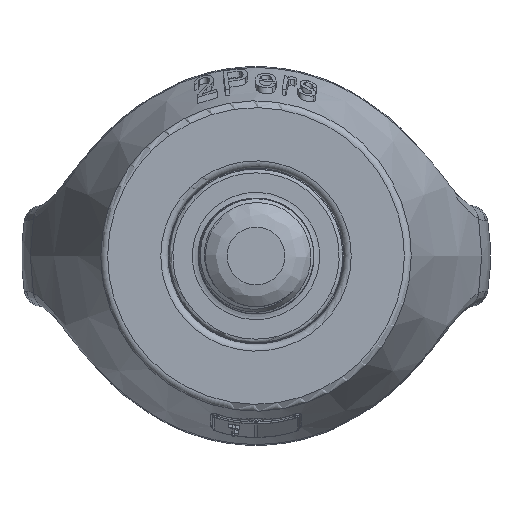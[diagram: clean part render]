
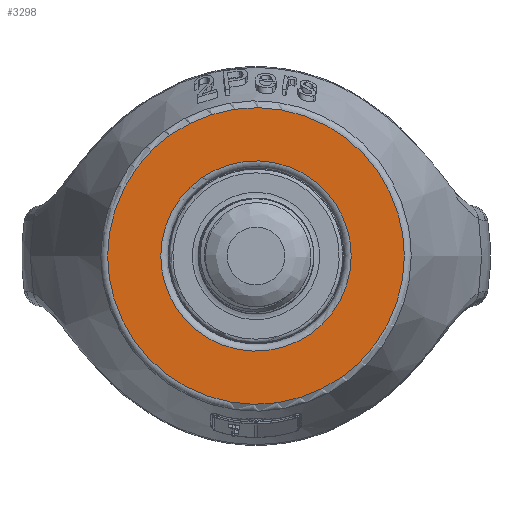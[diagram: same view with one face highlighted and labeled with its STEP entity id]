
A CAD part, front view. The second image highlights one B-rep face of the part: STEP entity #3298.
In plain terms, the highlighted planar face has unit normal (0, -1, 0).
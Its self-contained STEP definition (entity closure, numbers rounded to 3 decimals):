
#326=FACE_BOUND('',#5837,.T.);
#327=FACE_BOUND('',#5838,.T.);
#3298=ADVANCED_FACE('*FAC3275',(#326,#327),#3898,.T.);
#3898=PLANE('',#24615);
#5837=EDGE_LOOP('',(#12722,#12723));
#5838=EDGE_LOOP('',(#12724,#12725));
#12722=ORIENTED_EDGE('',*,*,#20731,.T.);
#12723=ORIENTED_EDGE('',*,*,#20730,.T.);
#12724=ORIENTED_EDGE('',*,*,#20938,.F.);
#12725=ORIENTED_EDGE('',*,*,#20939,.F.);
#16780=VERTEX_POINT('',#54967);
#16781=VERTEX_POINT('',#54968);
#16973=VERTEX_POINT('',#56884);
#16974=VERTEX_POINT('',#56885);
#20730=EDGE_CURVE('',#16780,#16781,#23685,.T.);
#20731=EDGE_CURVE('',#16781,#16780,#23686,.T.);
#20938=EDGE_CURVE('',#16973,#16974,#23751,.T.);
#20939=EDGE_CURVE('',#16974,#16973,#23752,.T.);
#23685=B_SPLINE_CURVE_WITH_KNOTS('',3,(#54957,#54958,#54959,#54960,#54961,
#54962,#54963,#54964,#54965,#54966),.UNSPECIFIED.,.F.,.F.,(4,2,2,2,4),(0.,
0.25,0.5,0.75,1.),.UNSPECIFIED.);
#23686=B_SPLINE_CURVE_WITH_KNOTS('',3,(#54969,#54970,#54971,#54972,#54973,
#54974,#54975,#54976,#54977,#54978),.UNSPECIFIED.,.F.,.F.,(4,2,2,2,4),(0.,
0.25,0.5,0.75,1.),.UNSPECIFIED.);
#23751=B_SPLINE_CURVE_WITH_KNOTS('',3,(#56874,#56875,#56876,#56877,#56878,
#56879,#56880,#56881,#56882,#56883),.UNSPECIFIED.,.F.,.F.,(4,2,2,2,4),(0.,
0.25,0.5,0.75,1.),.UNSPECIFIED.);
#23752=B_SPLINE_CURVE_WITH_KNOTS('',3,(#56886,#56887,#56888,#56889,#56890,
#56891,#56892,#56893,#56894,#56895),.UNSPECIFIED.,.F.,.F.,(4,2,2,2,4),(0.,
0.25,0.5,0.75,1.),.UNSPECIFIED.);
#24615=AXIS2_PLACEMENT_3D('',#56896,#25700,#25701);
#25700=DIRECTION('',(0.,-1.,0.));
#25701=DIRECTION('',(-1.,0.,0.));
#54957=CARTESIAN_POINT('',(13.15,-35.75,0.));
#54958=CARTESIAN_POINT('',(13.15,-35.75,-3.453));
#54959=CARTESIAN_POINT('',(11.739,-35.75,-6.857));
#54960=CARTESIAN_POINT('',(6.857,-35.75,-11.74));
#54961=CARTESIAN_POINT('',(3.452,-35.75,-13.15));
#54962=CARTESIAN_POINT('',(-3.452,-35.75,-13.15));
#54963=CARTESIAN_POINT('',(-6.857,-35.75,-11.739));
#54964=CARTESIAN_POINT('',(-11.74,-35.75,-6.857));
#54965=CARTESIAN_POINT('',(-13.15,-35.75,-3.455));
#54966=CARTESIAN_POINT('',(-13.15,-35.75,0.));
#54967=CARTESIAN_POINT('',(13.15,-35.75,0.));
#54968=CARTESIAN_POINT('',(-13.15,-35.75,0.));
#54969=CARTESIAN_POINT('',(-13.15,-35.75,0.));
#54970=CARTESIAN_POINT('',(-13.15,-35.75,3.453));
#54971=CARTESIAN_POINT('',(-11.739,-35.75,6.857));
#54972=CARTESIAN_POINT('',(-6.857,-35.75,11.74));
#54973=CARTESIAN_POINT('',(-3.452,-35.75,13.15));
#54974=CARTESIAN_POINT('',(3.452,-35.75,13.15));
#54975=CARTESIAN_POINT('',(6.857,-35.75,11.739));
#54976=CARTESIAN_POINT('',(11.74,-35.75,6.857));
#54977=CARTESIAN_POINT('',(13.15,-35.75,3.455));
#54978=CARTESIAN_POINT('',(13.15,-35.75,0.));
#56874=CARTESIAN_POINT('',(20.495,-35.75,0.));
#56875=CARTESIAN_POINT('',(20.495,-35.75,-5.366));
#56876=CARTESIAN_POINT('',(18.286,-35.75,-10.698));
#56877=CARTESIAN_POINT('',(10.698,-35.75,-18.286));
#56878=CARTESIAN_POINT('',(5.366,-35.75,-20.495));
#56879=CARTESIAN_POINT('',(-5.366,-35.75,-20.495));
#56880=CARTESIAN_POINT('',(-10.698,-35.75,-18.286));
#56881=CARTESIAN_POINT('',(-18.286,-35.75,-10.698));
#56882=CARTESIAN_POINT('',(-20.495,-35.75,-5.366));
#56883=CARTESIAN_POINT('',(-20.495,-35.75,0.));
#56884=CARTESIAN_POINT('',(20.495,-35.75,0.));
#56885=CARTESIAN_POINT('',(-20.495,-35.75,0.));
#56886=CARTESIAN_POINT('',(-20.495,-35.75,0.));
#56887=CARTESIAN_POINT('',(-20.495,-35.75,5.366));
#56888=CARTESIAN_POINT('',(-18.286,-35.75,10.698));
#56889=CARTESIAN_POINT('',(-10.698,-35.75,18.286));
#56890=CARTESIAN_POINT('',(-5.366,-35.75,20.495));
#56891=CARTESIAN_POINT('',(5.366,-35.75,20.495));
#56892=CARTESIAN_POINT('',(10.698,-35.75,18.286));
#56893=CARTESIAN_POINT('',(18.286,-35.75,10.698));
#56894=CARTESIAN_POINT('',(20.495,-35.75,5.366));
#56895=CARTESIAN_POINT('',(20.495,-35.75,0.));
#56896=CARTESIAN_POINT('',(20.741,-35.75,20.741));
